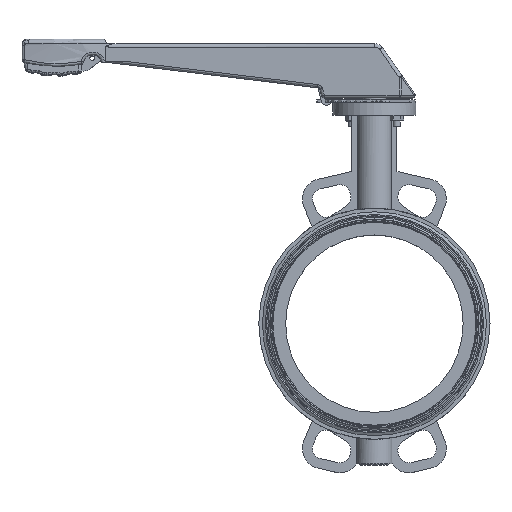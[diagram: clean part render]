
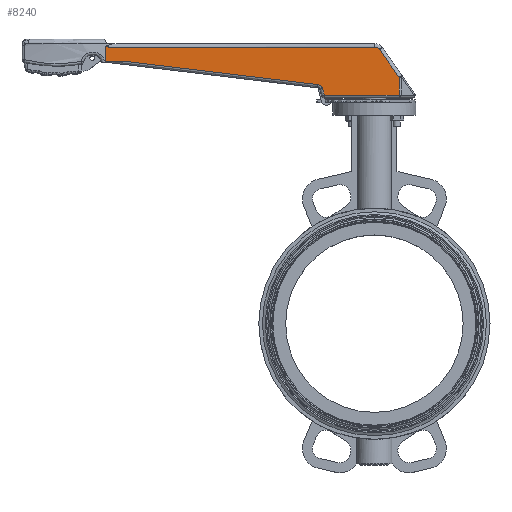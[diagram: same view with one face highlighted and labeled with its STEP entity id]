
A CAD part, top view. The second image highlights one B-rep face of the part: STEP entity #8240.
In plain terms, the highlighted planar face has unit normal (-0.017, 0, 1).
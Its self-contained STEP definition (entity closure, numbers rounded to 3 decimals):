
#6222=CARTESIAN_POINT('',(-297.25,290.,15.));
#6223=VERTEX_POINT('',#6222);
#6231=CARTESIAN_POINT('',(-297.25,307.05,15.));
#6232=VERTEX_POINT('',#6231);
#6233=CARTESIAN_POINT('',(-297.25,307.05,15.));
#6234=DIRECTION('',(0.0,-1.0,0.0));
#6235=VECTOR('',#6234,17.05);
#6236=LINE('',#6233,#6235);
#6237=EDGE_CURVE('',#6232,#6223,#6236,.T.);
#6415=CARTESIAN_POINT('',(-271.748,290.,15.421));
#6416=VERTEX_POINT('',#6415);
#6424=CARTESIAN_POINT('',(-297.25,290.,15.));
#6425=DIRECTION('',(1.,0.0,0.016));
#6426=VECTOR('',#6425,25.505);
#6427=LINE('',#6424,#6426);
#6428=EDGE_CURVE('',#6223,#6416,#6427,.T.);
#7853=CARTESIAN_POINT('',(-55.412,253.,18.991));
#7854=VERTEX_POINT('',#7853);
#7862=CARTESIAN_POINT('',(-57.397,260.408,18.958));
#7863=VERTEX_POINT('',#7862);
#7864=CARTESIAN_POINT('',(-55.412,253.,18.991));
#7865=DIRECTION('',(-0.259,0.966,-0.004));
#7866=VECTOR('',#7865,7.67);
#7867=LINE('',#7864,#7866);
#7868=EDGE_CURVE('',#7854,#7863,#7867,.T.);
#7986=CARTESIAN_POINT('',(-62.478,264.812,18.874));
#7987=VERTEX_POINT('',#7986);
#7995=CARTESIAN_POINT('',(-62.478,264.812,18.874));
#7996=DIRECTION('',(-0.993,0.119,-0.016));
#7997=VECTOR('',#7996,210.809);
#7998=LINE('',#7995,#7997);
#7999=EDGE_CURVE('',#7987,#6416,#7998,.T.);
#8030=CARTESIAN_POINT('',(-63.195,258.855,18.862));
#8031=DIRECTION('',(-0.016,0.,1.));
#8032=DIRECTION('',(1.,0.,0.016));
#8033=AXIS2_PLACEMENT_3D('',#8030,#8031,#8032);
#8034=ELLIPSE('',#8033,6.003,6.);
#8035=EDGE_CURVE('',#7863,#7987,#8034,.T.);
#8180=CARTESIAN_POINT('',(-297.25,315.,15.));
#8181=DIRECTION('',(-0.016,0.,1.));
#8182=DIRECTION('',(0.0,1.0,0.0));
#8183=AXIS2_PLACEMENT_3D('',#8180,#8181,#8182);
#8184=PLANE('',#8183);
#8185=CARTESIAN_POINT('',(27.365,272.77,20.357));
#8186=VERTEX_POINT('',#8185);
#8187=CARTESIAN_POINT('',(27.365,253.,20.357));
#8188=VERTEX_POINT('',#8187);
#8189=CARTESIAN_POINT('',(27.365,272.77,20.357));
#8190=DIRECTION('',(0.0,-1.0,0.0));
#8191=VECTOR('',#8190,19.77);
#8192=LINE('',#8189,#8191);
#8193=EDGE_CURVE('',#8186,#8188,#8192,.T.);
#8194=ORIENTED_EDGE('',*,*,#8193,.F.);
#8195=CARTESIAN_POINT('',(5.728,303.671,20.));
#8196=VERTEX_POINT('',#8195);
#8197=CARTESIAN_POINT('',(5.728,303.671,20.));
#8198=DIRECTION('',(0.574,-0.819,0.009));
#8199=VECTOR('',#8198,37.725);
#8200=LINE('',#8197,#8199);
#8201=EDGE_CURVE('',#8196,#8186,#8200,.T.);
#8202=ORIENTED_EDGE('',*,*,#8201,.F.);
#8203=CARTESIAN_POINT('',(0.485,306.4,19.913));
#8204=VERTEX_POINT('',#8203);
#8205=CARTESIAN_POINT('',(0.485,300.,19.913));
#8206=DIRECTION('',(0.016,0.,-1.));
#8207=DIRECTION('',(1.,0.,0.016));
#8208=AXIS2_PLACEMENT_3D('',#8205,#8206,#8207);
#8209=ELLIPSE('',#8208,6.401,6.4);
#8210=EDGE_CURVE('',#8204,#8196,#8209,.T.);
#8211=ORIENTED_EDGE('',*,*,#8210,.F.);
#8212=CARTESIAN_POINT('',(-294.393,306.4,15.047));
#8213=VERTEX_POINT('',#8212);
#8214=CARTESIAN_POINT('',(-294.393,306.4,15.047));
#8215=DIRECTION('',(1.,0.0,0.016));
#8216=VECTOR('',#8215,294.918);
#8217=LINE('',#8214,#8216);
#8218=EDGE_CURVE('',#8213,#8204,#8217,.T.);
#8219=ORIENTED_EDGE('',*,*,#8218,.F.);
#8220=CARTESIAN_POINT('',(-297.249,307.05,15.));
#8221=CARTESIAN_POINT('',(-296.361,306.624,15.015));
#8222=CARTESIAN_POINT('',(-295.372,306.4,15.031));
#8223=CARTESIAN_POINT('',(-294.393,306.4,15.047));
#8224=B_SPLINE_CURVE_WITH_KNOTS('',3,(#8220,#8221,#8222,#8223),.UNSPECIFIED.,.F.,.U.,(4,4),(0.627,0.921),.UNSPECIFIED.);
#8225=EDGE_CURVE('',#6232,#8213,#8224,.T.);
#8226=ORIENTED_EDGE('',*,*,#8225,.F.);
#8227=ORIENTED_EDGE('',*,*,#6237,.T.);
#8228=ORIENTED_EDGE('',*,*,#6428,.T.);
#8229=ORIENTED_EDGE('',*,*,#7999,.F.);
#8230=ORIENTED_EDGE('',*,*,#8035,.F.);
#8231=ORIENTED_EDGE('',*,*,#7868,.F.);
#8232=CARTESIAN_POINT('',(27.365,253.,20.357));
#8233=DIRECTION('',(-1.,0.0,-0.016));
#8234=VECTOR('',#8233,82.788);
#8235=LINE('',#8232,#8234);
#8236=EDGE_CURVE('',#8188,#7854,#8235,.T.);
#8237=ORIENTED_EDGE('',*,*,#8236,.F.);
#8238=EDGE_LOOP('',(#8194,#8202,#8211,#8219,#8226,#8227,#8228,#8229,#8230,#8231,#8237));
#8239=FACE_OUTER_BOUND('',#8238,.T.);
#8240=ADVANCED_FACE('',(#8239),#8184,.T.);
